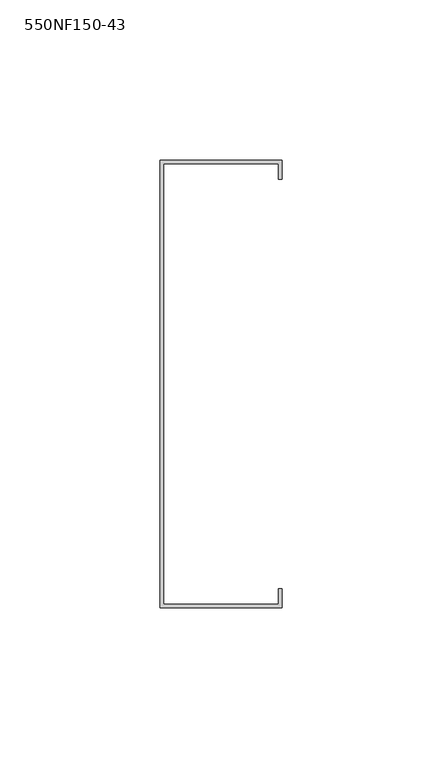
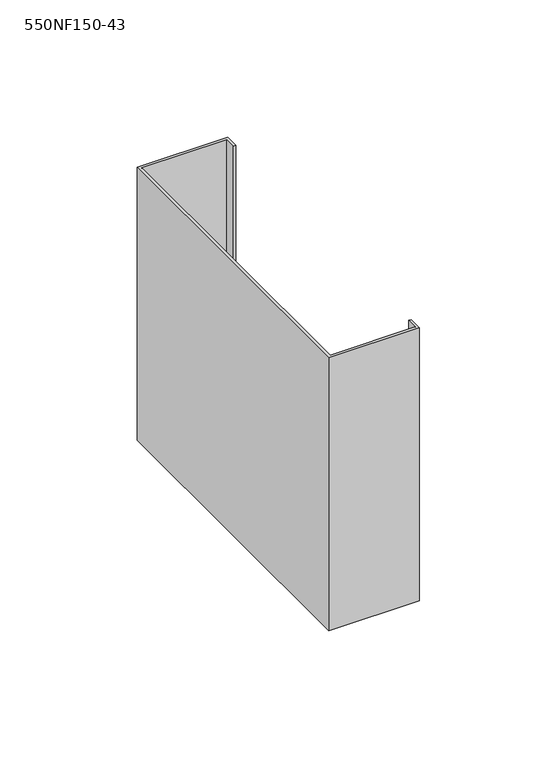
"""IFC4 building model written with IfcOpenShell, lengths in millimetres: column geometry, BIMSF-SSMA-S-Column : 550NF150-43."""

from ifc_helpers import new_model, si_unit, frame, origin, place, context, project, spatial, polyline, outline, extrude, source, transform, mapped, element, save


def column_550nf150_43_7b1025fd(model_context):
    return source(origin(), model_context, "Body", "SweptSolid", [
        extrude(outline(polyline([(-11.9977877, -80.5871249), (-11.9977877, 59.1128751), (26.1022123, 59.1128751), (26.1022123, 53.1879908), (24.952528, 53.1879908), (24.952528, 57.9631908), (-10.8481035, 57.9631908), (-10.8481035, -79.4374407), (24.952528, -79.4374407), (24.952528, -74.6622407), (26.1022123, -74.6622407), (26.1022123, -80.5871249), (-11.9977877, -80.5871249)])), frame((0.0, 0.0, 5525.3929688), z_axis=(0.0, 0.0, 1.0), x_axis=(1.0, 0.0, 0.0)), (0.0, 0.0, 1.0), 121.5098958),
    ])


if __name__ == "__main__":
    model = new_model("IFC4")
    model_context = context("Model", 3, world=origin())
    ifc_project = project(units=[si_unit("LENGTHUNIT", "METRE", prefix="MILLI")], contexts=[model_context])
    site = spatial("IfcSite", under=ifc_project)
    building = spatial("IfcBuilding", under=site)
    placement = place(None, origin())
    column_550nf150_43_shape = column_550nf150_43_7b1025fd(model_context)
    element("IfcColumn", 1, ObjectType="BIMSF-SSMA-S-Column : 550NF150-43", at=placement, inside=building, context=model_context, shape_type="MappedRepresentation", body=[
        mapped(column_550nf150_43_shape, transform((0.0, 0.0, 0.0), x_axis=(1.0, 0.0, 0.0), y_axis=(0.0, 1.0, 0.0), z_axis=(0.0, 0.0, 1.0))),
    ])
    save(model, "model.ifc")
